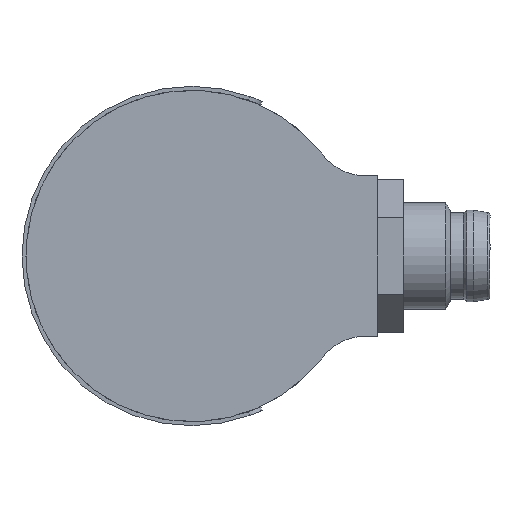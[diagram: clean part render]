
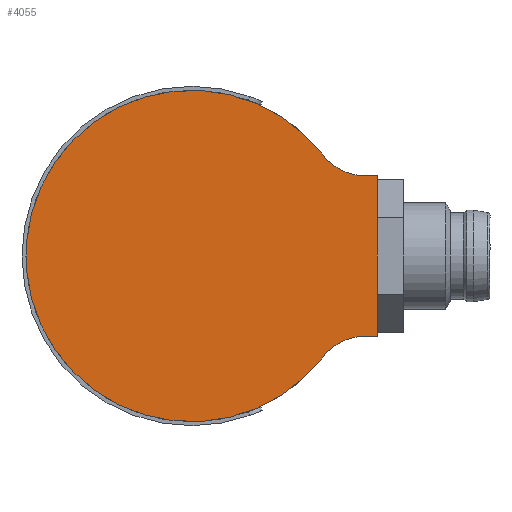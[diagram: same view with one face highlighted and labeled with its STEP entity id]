
A CAD part, left-side view. The second image highlights one B-rep face of the part: STEP entity #4055.
In plain terms, the highlighted planar face has unit normal (-1, 0, 0).
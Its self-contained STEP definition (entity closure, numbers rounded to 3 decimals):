
#166 = VECTOR ( 'NONE', #2889, 1000. ) ;
#216 = VERTEX_POINT ( 'NONE', #1992 ) ;
#303 = CARTESIAN_POINT ( 'NONE',  ( -36.5, -9.914, -7.614 ) ) ;
#492 = CARTESIAN_POINT ( 'NONE',  ( -36.5, -9.914, 7.614 ) ) ;
#555 = CARTESIAN_POINT ( 'NONE',  ( -36.5, -14., -6.05 ) ) ;
#761 = LINE ( 'NONE', #1152, #166 ) ;
#789 = CIRCLE ( 'NONE', #3322, 12.5 ) ;
#849 = AXIS2_PLACEMENT_3D ( 'NONE', #1879, #3598, #4494 ) ;
#874 = VERTEX_POINT ( 'NONE', #2424 ) ;
#896 = CARTESIAN_POINT ( 'NONE',  ( -36.5, -14., 6.05 ) ) ;
#948 = CARTESIAN_POINT ( 'NONE',  ( -36.5, 0., 0. ) ) ;
#1152 = CARTESIAN_POINT ( 'NONE',  ( -36.5, 12.501, -6.05 ) ) ;
#1384 = VECTOR ( 'NONE', #5480, 1000. ) ;
#1452 = CARTESIAN_POINT ( 'NONE',  ( -36.5, 12.501, 6.05 ) ) ;
#1463 = DIRECTION ( 'NONE',  ( -1., 0., 0. ) ) ;
#1484 = LINE ( 'NONE', #1452, #1384 ) ;
#1516 = VERTEX_POINT ( 'NONE', #555 ) ;
#1725 = DIRECTION ( 'NONE',  ( 1., 0., 0. ) ) ;
#1757 = DIRECTION ( 'NONE',  ( 0., 1., 0. ) ) ;
#1879 = CARTESIAN_POINT ( 'NONE',  ( -36.5, -13.086, 10.05 ) ) ;
#1898 = EDGE_CURVE ( 'NONE', #874, #1516, #761, .T. ) ;
#1992 = CARTESIAN_POINT ( 'NONE',  ( -36.5, -13.086, 6.05 ) ) ;
#1995 = EDGE_CURVE ( 'NONE', #1516, #3835, #4791, .T. ) ;
#2063 = EDGE_CURVE ( 'NONE', #3845, #2823, #789, .T. ) ;
#2192 = ORIENTED_EDGE ( 'NONE', *, *, #2063, .F. ) ;
#2258 = ORIENTED_EDGE ( 'NONE', *, *, #1995, .T. ) ;
#2424 = CARTESIAN_POINT ( 'NONE',  ( -36.5, -13.086, -6.05 ) ) ;
#2650 = DIRECTION ( 'NONE',  ( 0., 0., 1. ) ) ;
#2662 = EDGE_CURVE ( 'NONE', #3845, #874, #4186, .T. ) ;
#2823 = VERTEX_POINT ( 'NONE', #492 ) ;
#2837 = FACE_OUTER_BOUND ( 'NONE', #3745, .T. ) ;
#2872 = ORIENTED_EDGE ( 'NONE', *, *, #2662, .T. ) ;
#2889 = DIRECTION ( 'NONE',  ( 0., -1., 0. ) ) ;
#3142 = DIRECTION ( 'NONE',  ( 1., 0., 0. ) ) ;
#3205 = DIRECTION ( 'NONE',  ( 0., 1., 0. ) ) ;
#3293 = CIRCLE ( 'NONE', #849, 4. ) ;
#3322 = AXIS2_PLACEMENT_3D ( 'NONE', #948, #3142, #4365 ) ;
#3571 = CARTESIAN_POINT ( 'NONE',  ( -36.5, 0., 0. ) ) ;
#3598 = DIRECTION ( 'NONE',  ( 1., 0., 0. ) ) ;
#3652 = PLANE ( 'NONE',  #5392 ) ;
#3722 = AXIS2_PLACEMENT_3D ( 'NONE', #4287, #1725, #1757 ) ;
#3745 = EDGE_LOOP ( 'NONE', ( #2192, #2872, #4249, #2258, #4959, #5308 ) ) ;
#3835 = VERTEX_POINT ( 'NONE', #5037 ) ;
#3845 = VERTEX_POINT ( 'NONE', #303 ) ;
#4055 = ADVANCED_FACE ( 'NONE', ( #2837 ), #3652, .T. ) ;
#4081 = EDGE_CURVE ( 'NONE', #216, #2823, #3293, .T. ) ;
#4186 = CIRCLE ( 'NONE', #3722, 4. ) ;
#4249 = ORIENTED_EDGE ( 'NONE', *, *, #1898, .T. ) ;
#4287 = CARTESIAN_POINT ( 'NONE',  ( -36.5, -13.086, -10.05 ) ) ;
#4365 = DIRECTION ( 'NONE',  ( 0., -1., 0. ) ) ;
#4376 = EDGE_CURVE ( 'NONE', #216, #3835, #1484, .T. ) ;
#4494 = DIRECTION ( 'NONE',  ( 0., 1., 0. ) ) ;
#4791 = LINE ( 'NONE', #896, #4871 ) ;
#4871 = VECTOR ( 'NONE', #2650, 1000. ) ;
#4959 = ORIENTED_EDGE ( 'NONE', *, *, #4376, .F. ) ;
#5037 = CARTESIAN_POINT ( 'NONE',  ( -36.5, -14., 6.05 ) ) ;
#5308 = ORIENTED_EDGE ( 'NONE', *, *, #4081, .T. ) ;
#5392 = AXIS2_PLACEMENT_3D ( 'NONE', #3571, #1463, #3205 ) ;
#5480 = DIRECTION ( 'NONE',  ( 0., -1., 0. ) ) ;
